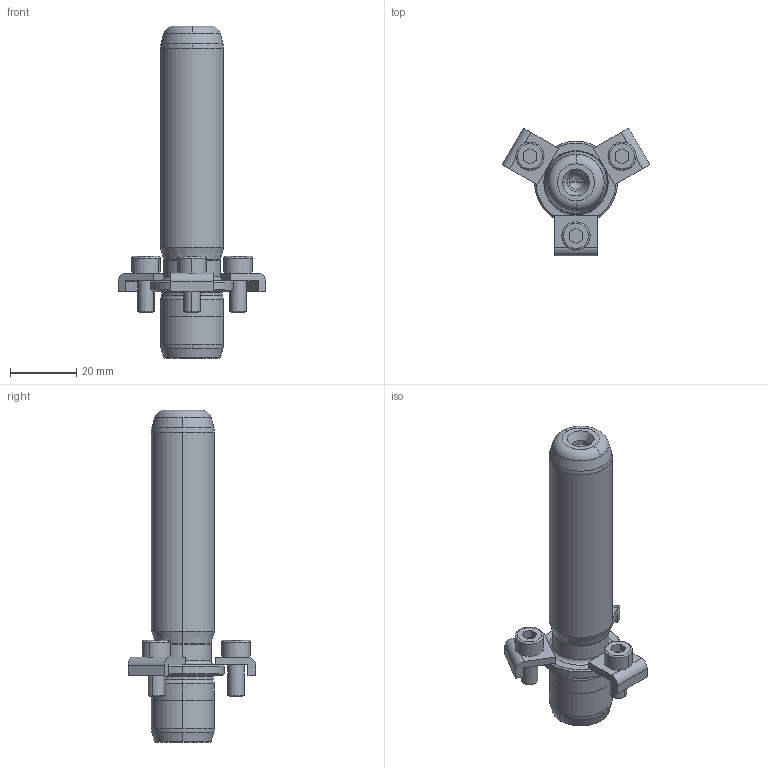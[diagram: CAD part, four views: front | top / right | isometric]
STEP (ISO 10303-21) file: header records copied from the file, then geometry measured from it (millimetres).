
FILE_DESCRIPTION((''),'2;1');
FILE_NAME('P21_019_100.stp','2008-12-18T10:50:13',(''),(''),'Mechanical Desktop 2009','Mechanical Desktop 2009',', , ');
FILE_SCHEMA(('CONFIG_CONTROL_DESIGN'));
Length unit declared in the file: millimetre
Products named in the file (2): Product; blmdl1
Assembly tree (1 placements, depth 2):
  Product
    blmdl1
Bounding box: 44.46 x 38.5 x 100 mm (x, y, z)
Volume: 30071.4 mm3; surface area: 10094.3 mm2
Topology: 7 solids, 7 shells, 163 faces, 399 edges, 257 vertices
Faces by surface type: plane 59, cylinder 44, cone 32, bspline 18, torus 10
Entity records: 5605 total; most frequent: CARTESIAN_POINT 1537, DIRECTION 900, ORIENTED_EDGE 790, EDGE_CURVE 395, AXIS2_PLACEMENT_3D 358, VERTEX_POINT 257, CIRCLE 211, VECTOR 184
